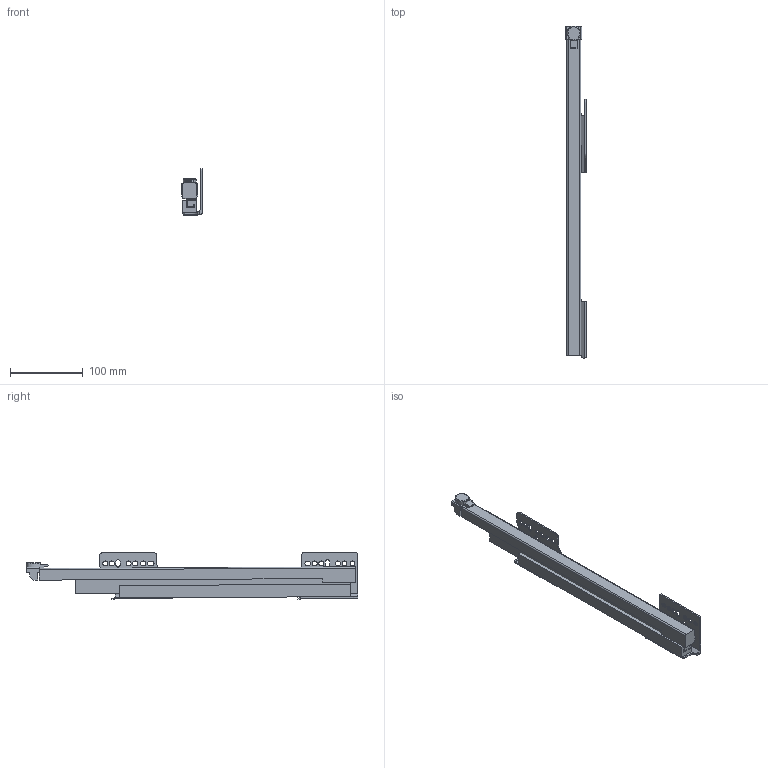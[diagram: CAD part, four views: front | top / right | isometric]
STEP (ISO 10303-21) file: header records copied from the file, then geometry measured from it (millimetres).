
FILE_DESCRIPTION (( 'STEP AP214' ), '1' );
FILE_NAME ('_IMOS_NOVA-Pro_KS_TL_EB29mm_RE_NL450.step', '2010-07-15T11:34:37', ( 'grass' ), ( '' ), 'SwSTEP 2.0', 'SolidWorks 2009', '' );
FILE_SCHEMA (( 'AUTOMOTIVE_DESIGN' ));
Length unit declared in the file: millimetre
Products named in the file (1): _IMOS_NOVA-Pro_KS_TL_EB29mm_RE_NL450
Bounding box: 27.95 x 456.56 x 64.46 mm (x, y, z)
Volume: 320229.9 mm3; surface area: 134810.8 mm2
Topology: 8 solids, 8 shells, 185 faces, 496 edges, 328 vertices
Faces by surface type: plane 116, cylinder 64, torus 5
Entity records: 5964 total; most frequent: CARTESIAN_POINT 1097, ORIENTED_EDGE 992, DIRECTION 972, EDGE_CURVE 496, VECTOR 350, LINE 350, VERTEX_POINT 328, AXIS2_PLACEMENT_3D 311
